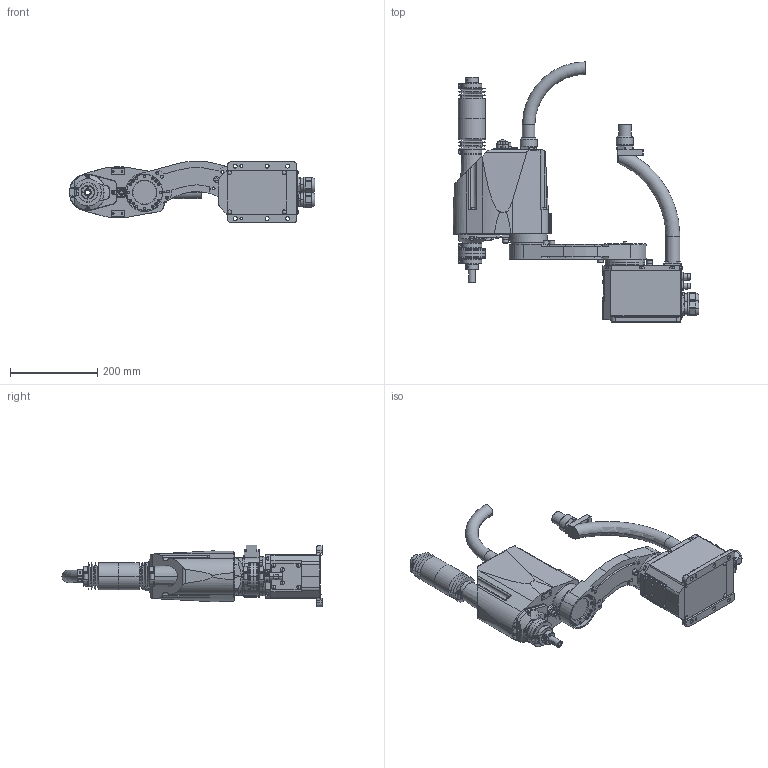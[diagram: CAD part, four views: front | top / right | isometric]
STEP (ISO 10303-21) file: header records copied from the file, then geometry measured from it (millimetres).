
FILE_DESCRIPTION( ( '' ), '1' );
FILE_NAME( '//expscmdclustefs.cadenas.external/client_exchange/iodir/jobs/output/wkb51510311_no0/STEP/G3_351C_L_2_03.stp', '2012-11-22T14:50:14', ( '' ), ( '' ), ' ', ' ', ' ' );
FILE_SCHEMA( ( 'CONFIG_CONTROL_DESIGN' ) );
Length unit declared in the file: millimetre
Products named in the file (8): 1; 2; 3; 4; 5; 6; 7; 8
Bounding box: 561.5 x 595 x 141.44 mm (x, y, z)
Volume: 8113256 mm3; surface area: 658178.4 mm2
Topology: 8 solids, 8 shells, 2009 faces, 4882 edges, 3123 vertices
Faces by surface type: plane 959, cylinder 694, cone 229, torus 90, sphere 37
Entity records: 61660 total; most frequent: CARTESIAN_POINT 12792, DIRECTION 10649, ORIENTED_EDGE 9700, EDGE_CURVE 4850, AXIS2_PLACEMENT_3D 3968, VERTEX_POINT 3123, LINE 2713, VECTOR 2713
